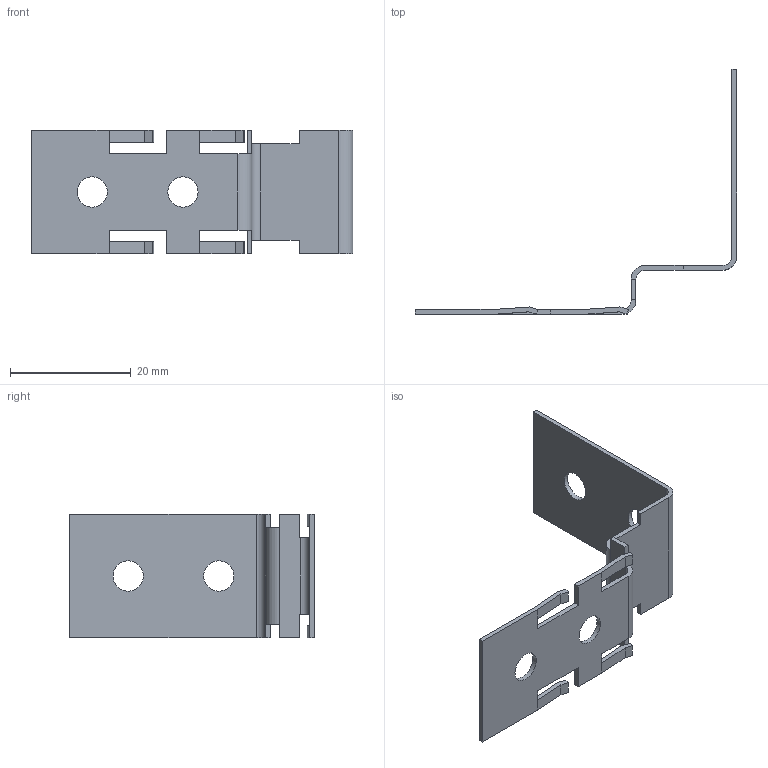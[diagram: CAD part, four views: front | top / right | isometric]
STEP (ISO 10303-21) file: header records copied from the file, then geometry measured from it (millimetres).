
FILE_DESCRIPTION( ( 'STEP AP214' ), '1' );
FILE_NAME( 'C:/Users/swati/Desktop/10-03-2016/11-03-2016/9210143/9210143.stp', ' ', ( ' ' ), ( ' ' ), 'PSStep 15.0.47', 'PARTsolutions', ' ' );
FILE_SCHEMA( ( 'AUTOMOTIVE_DESIGN { 1 0 10303 214 1 1 1 1 }' ) );
Length unit declared in the file: millimetre
Products named in the file (2): 95 ; _
Assembly tree (1 placements, depth 2):
  95 
    _
Bounding box: 53.2 x 40.5 x 20.4 mm (x, y, z)
Volume: 1309.9 mm3; surface area: 3581.5 mm2
Topology: 1 solids, 1 shells, 74 faces, 212 edges, 140 vertices
Faces by surface type: plane 64, cylinder 10
Full cylindrical faces by diameter (mm): 5 x4
Entity records: 2978 total; most frequent: CARTESIAN_POINT 416, ORIENTED_EDGE 408, DIRECTION 380, EDGE_CURVE 204, LINE 180, VECTOR 180, VERTEX_POINT 136, AXIS2_PLACEMENT_3D 100
